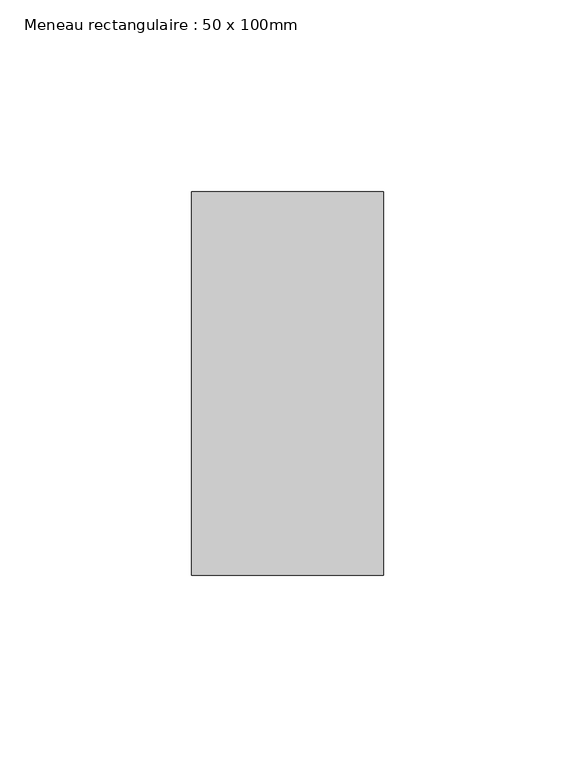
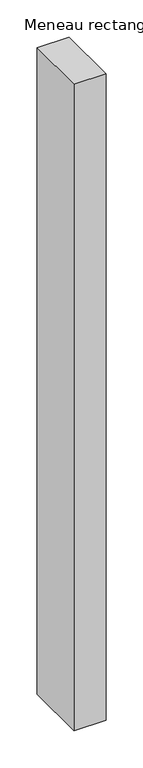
"""IFC4 building model written with IfcOpenShell, lengths in millimetres: member geometry, Meneau rectangulaire : 50 x 100mm."""

from ifc_helpers import new_model, si_unit, frame, origin, place, context, project, spatial, polyline, outline, extrude, source, transform, mapped, element, save


def meneau_rectangulaire_50_x_100mm_9c2ee2e1(model_context):
    return source(origin(), model_context, "Body", "SweptSolid", [
        extrude(outline(polyline([(0.0, 50.0), (0.0, -50.0), (-50.0, -50.0), (-50.0, 50.0), (0.0, 50.0)])), frame((0.0, 0.0, -1065.0705103), z_axis=(0.0, 0.0, 1.0), x_axis=(1.0, 0.0, 0.0)), (0.0, 0.0, 1.0), 1065.0705103),
    ])


if __name__ == "__main__":
    model = new_model("IFC4")
    model_context = context("Model", 3, world=origin())
    ifc_project = project(units=[si_unit("LENGTHUNIT", "METRE", prefix="MILLI")], contexts=[model_context])
    site = spatial("IfcSite", under=ifc_project)
    building = spatial("IfcBuilding", under=site)
    placement = place(None, origin())
    meneau_rectangulaire_50_x_100mm_shape = meneau_rectangulaire_50_x_100mm_9c2ee2e1(model_context)
    element("IfcMember", 1, ObjectType="Meneau rectangulaire : 50 x 100mm", at=placement, inside=building, context=model_context, shape_type="MappedRepresentation", body=[
        mapped(meneau_rectangulaire_50_x_100mm_shape, transform((0.0, 0.0, 0.0), x_axis=(1.0, 0.0, 0.0), y_axis=(0.0, 1.0, 0.0), z_axis=(0.0, 0.0, 1.0))),
    ])
    save(model, "model.ifc")
